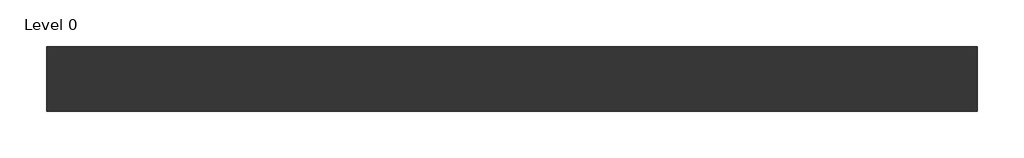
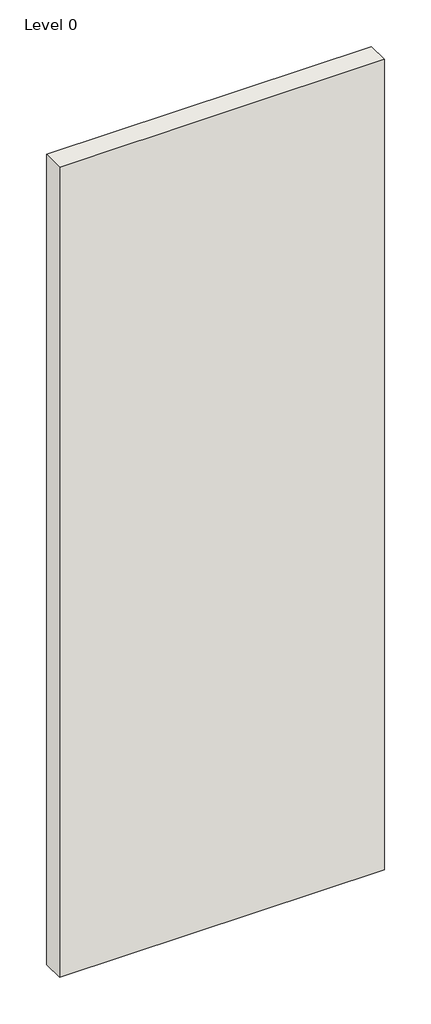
# One storey: 1 wall.
"""IFC4 building model written with IfcOpenShell, lengths in millimetres."""

from ifc_helpers import new_model, si_unit, origin, origin_with_axes, place, context, project, spatial, polyline, outline, extrude, element, save

model = new_model("IFC4")

# Units and contexts
model_context = context("Model", 3, world=origin())
ifc_project = project(units=[si_unit("LENGTHUNIT", "METRE", prefix="MILLI")], contexts=[model_context])

# Site, building, storey
site = spatial("IfcSite", under=ifc_project)
building = spatial("IfcBuilding", under=site)
storey = spatial("IfcBuildingStorey", under=building, Name="Level 0", Elevation=0.0)

# Wall
placement = place(None, origin())
element("IfcWall", 1, ObjectType="A206179 - GypWall CLASSIC", at=placement, inside=storey, context=model_context, shape_type="SweptSolid", body=[
    extrude(outline(polyline([(2116.0807354, 489.7205641), (-883.9192646, 489.7205641), (-883.9192646, 697.7205641), (2116.0807354, 697.7205641), (2116.0807354, 489.7205641)])), origin_with_axes(), (0.0, 0.0, 1.0), 7900.0),
])

save(model, "model.ifc")
